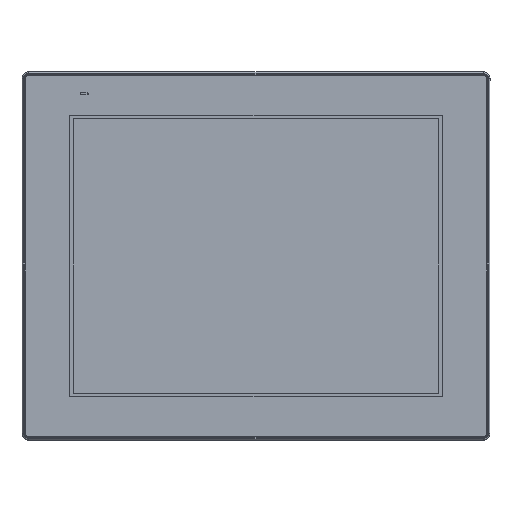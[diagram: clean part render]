
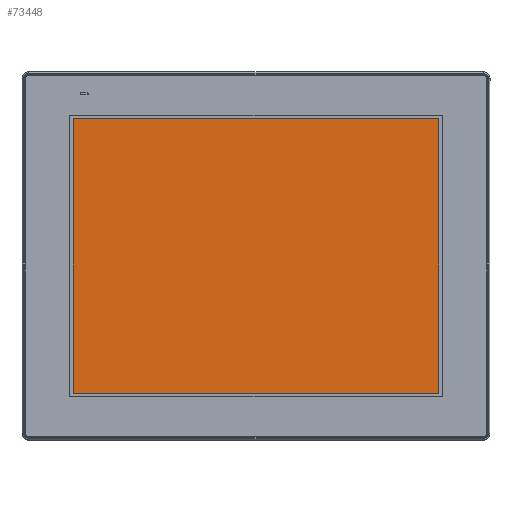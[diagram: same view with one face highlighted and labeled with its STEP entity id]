
A CAD part, top view. The second image highlights one B-rep face of the part: STEP entity #73448.
In plain terms, the highlighted planar face has unit normal (0, 0, 1).
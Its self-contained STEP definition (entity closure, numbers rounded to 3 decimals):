
#9101 = VERTEX_POINT ( 'NONE', #39333 ) ;
#9880 = DIRECTION ( 'NONE',  ( 0., 0., -1. ) ) ;
#13505 = VERTEX_POINT ( 'NONE', #41543 ) ;
#13703 = CARTESIAN_POINT ( 'NONE',  ( 242.532, 27.332, 56.807 ) ) ;
#15876 = DIRECTION ( 'NONE',  ( 0., -1., 0. ) ) ;
#18255 = EDGE_CURVE ( 'NONE', #25649, #13505, #60682, .T. ) ;
#19927 = VECTOR ( 'NONE', #15876, 1000. ) ;
#22344 = CARTESIAN_POINT ( 'NONE',  ( 29.932, 187.132, 56.807 ) ) ;
#22525 = DIRECTION ( 'NONE',  ( 1., 0., 0. ) ) ;
#25649 = VERTEX_POINT ( 'NONE', #60768 ) ;
#26221 = EDGE_LOOP ( 'NONE', ( #36675, #44525, #80440, #49415 ) ) ;
#29787 = VECTOR ( 'NONE', #31231, 1000. ) ;
#30521 = CARTESIAN_POINT ( 'NONE',  ( 3.982, 3.982, 56.807 ) ) ;
#31231 = DIRECTION ( 'NONE',  ( 0., 1., 0. ) ) ;
#32625 = CARTESIAN_POINT ( 'NONE',  ( 242.532, 187.132, 56.807 ) ) ;
#35434 = VECTOR ( 'NONE', #39126, 1000. ) ;
#36548 = LINE ( 'NONE', #22344, #19927 ) ;
#36675 = ORIENTED_EDGE ( 'NONE', *, *, #42620, .T. ) ;
#37680 = CARTESIAN_POINT ( 'NONE',  ( 29.932, 27.332, 56.807 ) ) ;
#38648 = FACE_OUTER_BOUND ( 'NONE', #26221, .T. ) ;
#39126 = DIRECTION ( 'NONE',  ( -1., 0., 0. ) ) ;
#39333 = CARTESIAN_POINT ( 'NONE',  ( 29.932, 27.332, 56.807 ) ) ;
#41543 = CARTESIAN_POINT ( 'NONE',  ( 29.932, 187.132, 56.807 ) ) ;
#42620 = EDGE_CURVE ( 'NONE', #74426, #25649, #48544, .T. ) ;
#44525 = ORIENTED_EDGE ( 'NONE', *, *, #18255, .T. ) ;
#48544 = LINE ( 'NONE', #80907, #29787 ) ;
#49415 = ORIENTED_EDGE ( 'NONE', *, *, #87043, .T. ) ;
#51758 = DIRECTION ( 'NONE',  ( -1., 0., 0. ) ) ;
#55210 = VECTOR ( 'NONE', #22525, 1000. ) ;
#56299 = LINE ( 'NONE', #37680, #55210 ) ;
#60682 = LINE ( 'NONE', #32625, #35434 ) ;
#60768 = CARTESIAN_POINT ( 'NONE',  ( 242.532, 187.132, 56.807 ) ) ;
#61259 = EDGE_CURVE ( 'NONE', #13505, #9101, #36548, .T. ) ;
#68689 = AXIS2_PLACEMENT_3D ( 'NONE', #30521, #9880, #51758 ) ;
#73402 = PLANE ( 'NONE',  #68689 ) ;
#73448 = ADVANCED_FACE ( 'N', ( #38648 ), #73402, .F. ) ;
#74426 = VERTEX_POINT ( 'NONE', #13703 ) ;
#80440 = ORIENTED_EDGE ( 'NONE', *, *, #61259, .T. ) ;
#80907 = CARTESIAN_POINT ( 'NONE',  ( 242.532, 27.332, 56.807 ) ) ;
#87043 = EDGE_CURVE ( 'NONE', #9101, #74426, #56299, .T. ) ;
